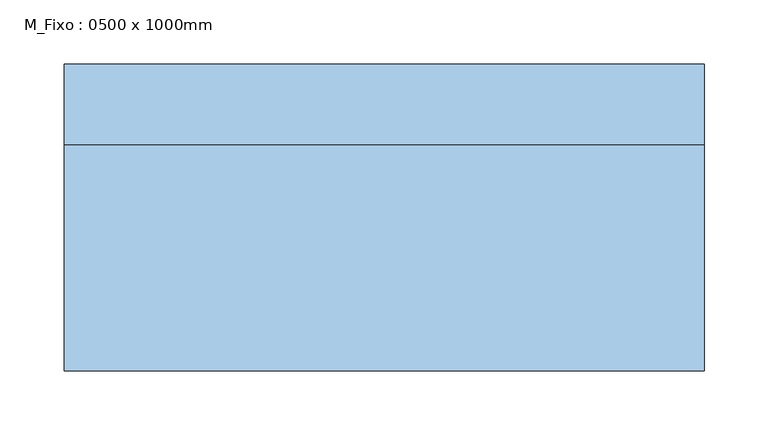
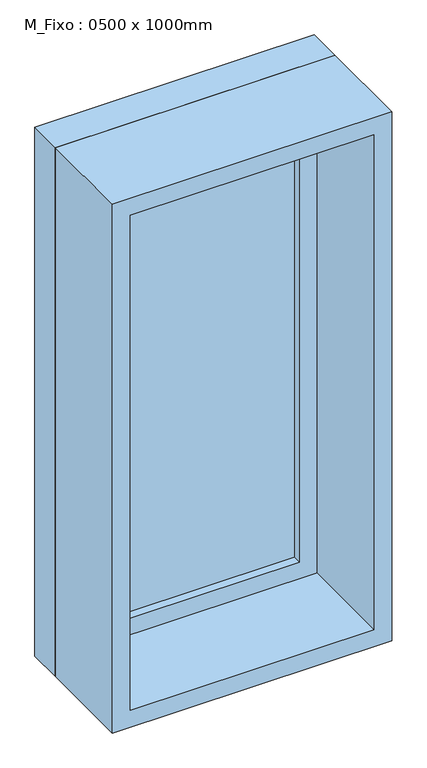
"""IFC4 building model written with IfcOpenShell, lengths in millimetres: window geometry, M_Fixo : 0500 x 1000mm."""

from ifc_helpers import new_model, si_unit, frame, origin, place, context, project, spatial, polyline, outline, extrude, source, transform, mapped, element, save


def m_fixo_0500_x_1000mm_290372b0(model_context):
    return source(origin(), model_context, "Body", "SweptSolid", [
        extrude(outline(polyline([(-187.0, 98.0), (187.0, 98.0), (187.0, 86.0), (-187.0, 86.0), (-187.0, 98.0)])), frame((0.0, 0.0, 1483.0), z_axis=(0.0, 0.0, 1.0), x_axis=(1.0, 0.0, 0.0)), (0.0, 0.0, 1.0), 874.0),
        extrude(outline(polyline([(2401.0, -231.0), (1439.0, -231.0), (1439.0, 231.0), (2401.0, 231.0), (2401.0, -231.0)]), holes=[polyline([(2357.0, -187.0), (2357.0, 187.0), (1483.0, 187.0), (1483.0, -187.0), (2357.0, -187.0)])]), frame((0.0, 70.0, 0.0), z_axis=(0.0, 1.0, 0.0), x_axis=(0.0, 0.0, 1.0)), (0.0, 0.0, 1.0), 44.0),
        extrude(outline(polyline([(2420.0, -250.0), (1420.0, -250.0), (1420.0, 250.0), (2420.0, 250.0), (2420.0, -250.0)]), holes=[polyline([(2401.0, -231.0), (2401.0, 231.0), (1439.0, 231.0), (1439.0, -231.0), (2401.0, -231.0)])]), frame((0.0, 70.0, 0.0), z_axis=(0.0, 1.0, 0.0), x_axis=(0.0, 0.0, 1.0)), (0.0, 0.0, 1.0), 63.0),
        extrude(outline(polyline([(2420.0, -250.0), (1420.0, -250.0), (1420.0, 250.0), (2420.0, 250.0), (2420.0, -250.0)]), holes=[polyline([(2388.0, -218.0), (2388.0, 218.0), (1452.0, 218.0), (1452.0, -218.0), (2388.0, -218.0)])]), frame((0.0, -107.0, 0.0), z_axis=(0.0, 1.0, 0.0), x_axis=(0.0, 0.0, 1.0)), (0.0, 0.0, 1.0), 177.0),
    ])


if __name__ == "__main__":
    model = new_model("IFC4")
    model_context = context("Model", 3, world=origin())
    ifc_project = project(units=[si_unit("LENGTHUNIT", "METRE", prefix="MILLI")], contexts=[model_context])
    site = spatial("IfcSite", under=ifc_project)
    building = spatial("IfcBuilding", under=site)
    placement = place(None, origin())
    m_fixo_0500_x_1000mm_shape = m_fixo_0500_x_1000mm_290372b0(model_context)
    element("IfcWindow", 1, ObjectType="M_Fixo : 0500 x 1000mm", at=placement, inside=building, context=model_context, shape_type="MappedRepresentation", body=[
        mapped(m_fixo_0500_x_1000mm_shape, transform((0.0, 0.0, 0.0), x_axis=(1.0, 0.0, 0.0), y_axis=(0.0, 1.0, 0.0), z_axis=(0.0, 0.0, 1.0))),
    ])
    save(model, "model.ifc")
